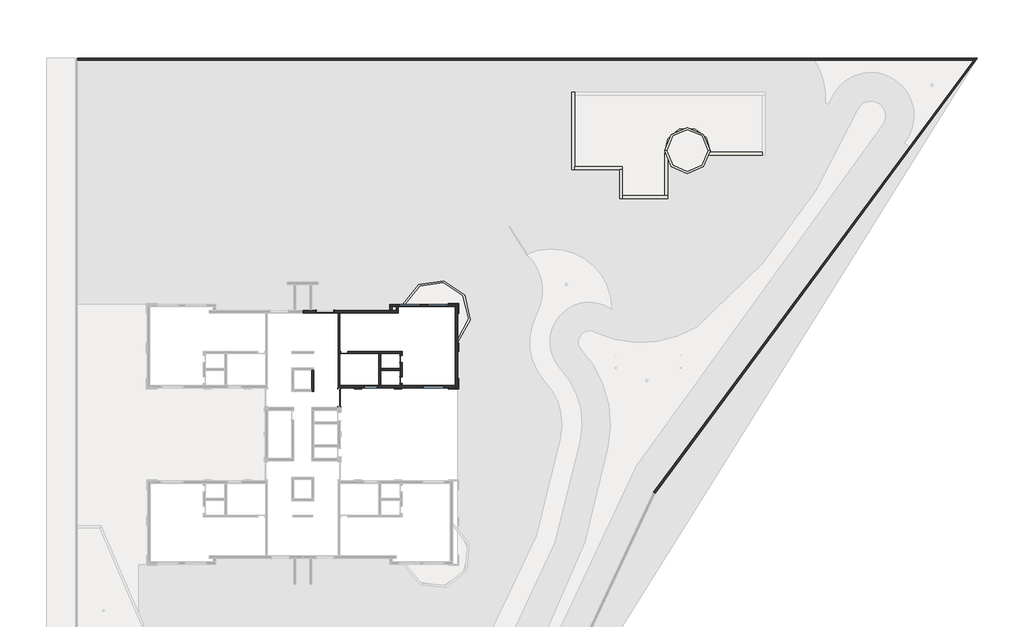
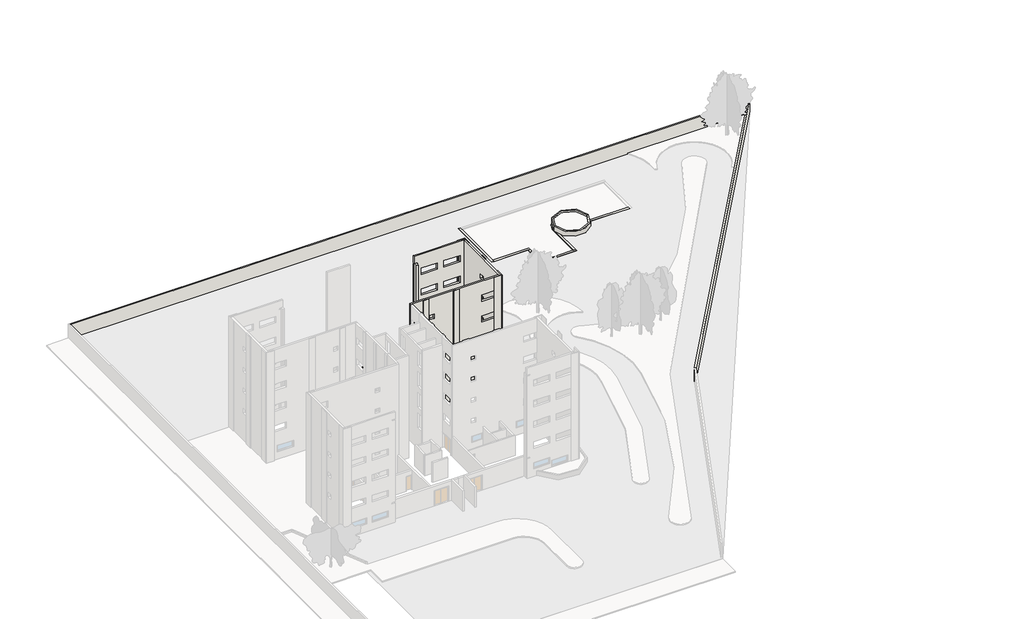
# One storey, part 5 of 6: 32 walls, 5 doors, 4 windows.
"""IFC4 building model written with IfcOpenShell, lengths in millimetres."""

from ifc_helpers import new_model, si_unit, point, frame, frame_2d, origin, origin_with_axes, place, context, project, spatial, polyline, circle_curve, trimmed, segment, composite_curve, outline, extrude, faceted_brep, transform, mapped, element, save
from ifc_brep_helpers import plane_surface, revolved_surface, advanced_brep
from components import door_1830_x_2134_mm_660d1098, door_1830_x_2134_mm_dff67cf6, door_70_x_210_60989ca5, door_70_x_210_2a34fc55, window_140_x_90_3976a560, window_220_x_90_cea65aae

model = new_model("IFC4")

# Units and contexts
model_context = context("Model", 3, world=origin())
ifc_project = project(units=[si_unit("LENGTHUNIT", "METRE", prefix="MILLI")], contexts=[model_context])

# Site, building, storey
site = spatial("IfcSite", under=ifc_project)
building = spatial("IfcBuilding", under=site)
storey = spatial("IfcBuildingStorey", under=building, Name="Térreo", Elevation=0.0)

# Doors
placement = place(None, origin())
door_1830_x_2134_mm_shape = door_1830_x_2134_mm_660d1098(model_context)
element("IfcDoor", 1, ObjectType="Descarga dupla : 1830 x 2134 mm", at=placement, inside=storey, context=model_context, shape_type="MappedRepresentation", body=[
    mapped(door_1830_x_2134_mm_shape, transform((1266.2734258, 13478.6614625, 0.0), x_axis=(-1.0, 0.0, 0.0), y_axis=(0.0, -1.0, 0.0), z_axis=(0.0, 0.0, 1.0))),
])
door_1830_x_2134_mm_2_shape = door_1830_x_2134_mm_dff67cf6(model_context)
element("IfcDoor", 2, ObjectType="Descarga dupla : 1830 x 2134 mm", at=placement, inside=storey, context=model_context, shape_type="MappedRepresentation", body=[
    mapped(door_1830_x_2134_mm_2_shape, transform((2748.7734258, 4563.6614625, 0.0), x_axis=(0.0, 1.0, 0.0), y_axis=(-1.0, 0.0, 0.0), z_axis=(0.0, 0.0, 1.0))),
])
door_70_x_210_shape = door_70_x_210_60989ca5(model_context)
element("IfcDoor", 3, ObjectType="M_Descarga simples : 70 x 210", at=placement, inside=storey, context=model_context, shape_type="MappedRepresentation", body=[
    mapped(door_70_x_210_shape, transform((3273.7734258, 9233.6614625, 0.0), x_axis=(-1.0, 0.0, 0.0), y_axis=(0.0, -1.0, 0.0), z_axis=(0.0, 0.0, 1.0))),
])
element("IfcDoor", 4, ObjectType="M_Descarga simples : 70 x 210", at=placement, inside=storey, context=model_context, shape_type="MappedRepresentation", body=[
    mapped(door_70_x_210_shape, transform((9138.7734258, 8583.6614625, 0.0), x_axis=(0.0, 1.0, 0.0), y_axis=(-1.0, 0.0, 0.0), z_axis=(0.0, 0.0, 1.0))),
])
door_70_x_210_2_shape = door_70_x_210_2a34fc55(model_context)
element("IfcDoor", 5, ObjectType="M_Descarga simples : 70 x 210", at=placement, inside=storey, context=model_context, shape_type="MappedRepresentation", body=[
    mapped(door_70_x_210_2_shape, transform((9138.7734258, 6383.6614625, 0.0), x_axis=(0.0, -1.0, 0.0), y_axis=(1.0, 0.0, 0.0), z_axis=(0.0, 0.0, 1.0))),
])

# Walls
element("IfcWall", 6, ObjectType="Exeterna 25", at=placement, inside=storey, context=model_context, shape_type="Brep", body=[
    faceted_brep([(7973.7734258, 13983.6614625, 0.0), (8223.7734258, 13983.6614625, 0.0), (8638.7734258, 13983.6614625, 0.0), (8838.7734258, 13983.6614625, 0.0), (14763.7734258, 13983.6614625, 0.0), (15013.7734258, 13983.6614625, 0.0), (15013.7734258, 13983.6614625, 16000.0), (14763.7734258, 13983.6614625, 16000.0), (7973.7734258, 13983.6614625, 16000.0), (7973.7734258, 13983.6614625, 15000.0), (8463.7734258, 13983.6614625, 15000.0), (8463.7734258, 13983.6614625, 14850.0), (7973.7734258, 13983.6614625, 14850.0), (7973.7734258, 13983.6614625, 3000.0), (8463.7734258, 13983.6614625, 3000.0), (8463.7734258, 13983.6614625, 2850.0), (7973.7734258, 13983.6614625, 2850.0), (14238.7734258, 13983.6614625, 5000.0), (14238.7734258, 13983.6614625, 4100.0), (12038.7734258, 13983.6614625, 4100.0), (12038.7734258, 13983.6614625, 5000.0), (11138.7734258, 13983.6614625, 5000.0), (11138.7734258, 13983.6614625, 4100.0), (8938.7734258, 13983.6614625, 4100.0), (8938.7734258, 13983.6614625, 5000.0), (14238.7734258, 13983.6614625, 8000.0), (14238.7734258, 13983.6614625, 7100.0), (12038.7734258, 13983.6614625, 7100.0), (12038.7734258, 13983.6614625, 8000.0), (11138.7734258, 13983.6614625, 8000.0), (11138.7734258, 13983.6614625, 7100.0), (8938.7734258, 13983.6614625, 7100.0), (8938.7734258, 13983.6614625, 8000.0), (14238.7734258, 13983.6614625, 11000.0), (14238.7734258, 13983.6614625, 10100.0), (12038.7734258, 13983.6614625, 10100.0), (12038.7734258, 13983.6614625, 11000.0), (11138.7734258, 13983.6614625, 11000.0), (11138.7734258, 13983.6614625, 10100.0), (8938.7734258, 13983.6614625, 10100.0), (8938.7734258, 13983.6614625, 11000.0), (14238.7734258, 13983.6614625, 14000.0), (14238.7734258, 13983.6614625, 13100.0), (12038.7734258, 13983.6614625, 13100.0), (12038.7734258, 13983.6614625, 14000.0), (11138.7734258, 13983.6614625, 14000.0), (11138.7734258, 13983.6614625, 13100.0), (8938.7734258, 13983.6614625, 13100.0), (8938.7734258, 13983.6614625, 14000.0), (14043.7734258, 13983.6614625, 2000.0), (14043.7734258, 13983.6614625, 1100.0), (11843.7734258, 13983.6614625, 1100.0), (11843.7734258, 13983.6614625, 2000.0), (11138.7734258, 13983.6614625, 2000.0), (11138.7734258, 13983.6614625, 1100.0), (8938.7734258, 13983.6614625, 1100.0), (8938.7734258, 13983.6614625, 2000.0), (15013.7734258, 14233.6614625, 0.0), (9512.5678464, 14233.6614625, 0.0), (9302.0913006, 14233.6614625, 0.0), (7973.7734258, 14233.6614625, 0.0), (7973.7734258, 14233.6614625, 2850.0), (8463.7734258, 14233.6614625, 2850.0), (8463.7734258, 14233.6614625, 3000.0), (7973.7734258, 14233.6614625, 3000.0), (7973.7734258, 14233.6614625, 14850.0), (8463.7734258, 14233.6614625, 14850.0), (8463.7734258, 14233.6614625, 15000.0), (7973.7734258, 14233.6614625, 15000.0), (7973.7734258, 14233.6614625, 16000.0), (8463.7734258, 14233.6614625, 16000.0), (8713.7734258, 14233.6614625, 16000.0), (15013.7734258, 14233.6614625, 16000.0), (14238.7734258, 14233.6614625, 4100.0), (14238.7734258, 14233.6614625, 5000.0), (12038.7734258, 14233.6614625, 5000.0), (12038.7734258, 14233.6614625, 4100.0), (11138.7734258, 14233.6614625, 4100.0), (11138.7734258, 14233.6614625, 5000.0), (8938.7734258, 14233.6614625, 5000.0), (8938.7734258, 14233.6614625, 4100.0), (14238.7734258, 14233.6614625, 7100.0), (14238.7734258, 14233.6614625, 8000.0), (12038.7734258, 14233.6614625, 8000.0), (12038.7734258, 14233.6614625, 7100.0), (11138.7734258, 14233.6614625, 7100.0), (11138.7734258, 14233.6614625, 8000.0), (8938.7734258, 14233.6614625, 8000.0), (8938.7734258, 14233.6614625, 7100.0), (14238.7734258, 14233.6614625, 10100.0), (14238.7734258, 14233.6614625, 11000.0), (12038.7734258, 14233.6614625, 11000.0), (12038.7734258, 14233.6614625, 10100.0), (11138.7734258, 14233.6614625, 10100.0), (11138.7734258, 14233.6614625, 11000.0), (8938.7734258, 14233.6614625, 11000.0), (8938.7734258, 14233.6614625, 10100.0), (14238.7734258, 14233.6614625, 13100.0), (14238.7734258, 14233.6614625, 14000.0), (12038.7734258, 14233.6614625, 14000.0), (12038.7734258, 14233.6614625, 13100.0), (11138.7734258, 14233.6614625, 13100.0), (11138.7734258, 14233.6614625, 14000.0), (8938.7734258, 14233.6614625, 14000.0), (8938.7734258, 14233.6614625, 13100.0), (14043.7734258, 14233.6614625, 1100.0), (14043.7734258, 14233.6614625, 2000.0), (11843.7734258, 14233.6614625, 2000.0), (11843.7734258, 14233.6614625, 1100.0), (11138.7734258, 14233.6614625, 1100.0), (11138.7734258, 14233.6614625, 2000.0), (8938.7734258, 14233.6614625, 2000.0), (8938.7734258, 14233.6614625, 1100.0)], [[[0, 1, 2, 3, 4, 5, 6, 7, 8, 9, 10, 11, 12, 13, 14, 15, 16], [17, 18, 19, 20], [21, 22, 23, 24], [25, 26, 27, 28], [29, 30, 31, 32], [33, 34, 35, 36], [37, 38, 39, 40], [41, 42, 43, 44], [45, 46, 47, 48], [49, 50, 51, 52], [53, 54, 55, 56]], [[57, 58, 59, 60, 61, 62, 63, 64, 65, 66, 67, 68, 69, 70, 71, 72], [73, 74, 75, 76], [77, 78, 79, 80], [81, 82, 83, 84], [85, 86, 87, 88], [89, 90, 91, 92], [93, 94, 95, 96], [97, 98, 99, 100], [101, 102, 103, 104], [105, 106, 107, 108], [109, 110, 111, 112]], [[5, 4, 3, 2, 1, 0, 60, 59, 58, 57]], [[8, 7, 6, 72, 71, 70, 69]], [[6, 5, 57, 72]], [[8, 69, 68, 9]], [[60, 0, 16, 61]], [[64, 13, 12, 65]], [[15, 62, 61, 16]], [[63, 14, 13, 64]], [[62, 15, 14, 63]], [[74, 73, 18, 17]], [[75, 74, 17, 20]], [[76, 75, 20, 19]], [[73, 76, 19, 18]], [[78, 77, 22, 21]], [[79, 78, 21, 24]], [[80, 79, 24, 23]], [[77, 80, 23, 22]], [[11, 66, 65, 12]], [[67, 10, 9, 68]], [[66, 11, 10, 67]], [[82, 81, 26, 25]], [[83, 82, 25, 28]], [[84, 83, 28, 27]], [[81, 84, 27, 26]], [[86, 85, 30, 29]], [[87, 86, 29, 32]], [[88, 87, 32, 31]], [[85, 88, 31, 30]], [[90, 89, 34, 33]], [[91, 90, 33, 36]], [[92, 91, 36, 35]], [[89, 92, 35, 34]], [[94, 93, 38, 37]], [[95, 94, 37, 40]], [[96, 95, 40, 39]], [[93, 96, 39, 38]], [[98, 97, 42, 41]], [[99, 98, 41, 44]], [[100, 99, 44, 43]], [[97, 100, 43, 42]], [[102, 101, 46, 45]], [[103, 102, 45, 48]], [[104, 103, 48, 47]], [[101, 104, 47, 46]], [[106, 105, 50, 49]], [[107, 106, 49, 52]], [[108, 107, 52, 51]], [[105, 108, 51, 50]], [[110, 109, 54, 53]], [[111, 110, 53, 56]], [[112, 111, 56, 55]], [[109, 112, 55, 54]]]),
])
element("IfcWall", 7, ObjectType="Exeterna 25", at=placement, inside=storey, context=model_context, shape_type="Brep", body=[
    faceted_brep([(14763.7734258, 13983.6614625, 0.0), (14763.7734258, 5833.6614625, 0.0), (14763.7734258, 5583.6614625, 0.0), (14763.7734258, 5583.6614625, 16000.0), (14763.7734258, 5833.6614625, 16000.0), (14763.7734258, 13983.6614625, 16000.0), (14763.7734258, 13983.6614625, 15000.0), (14763.7734258, 13983.6614625, 14850.0), (14763.7734258, 13983.6614625, 3000.0), (14763.7734258, 13983.6614625, 2850.0), (14763.7734258, 10033.6614625, 3915.0), (14763.7734258, 10033.6614625, 4515.0), (14763.7734258, 9433.6614625, 4515.0), (14763.7734258, 9433.6614625, 3915.0), (14763.7734258, 10033.6614625, 6915.0), (14763.7734258, 10033.6614625, 7515.0), (14763.7734258, 9433.6614625, 7515.0), (14763.7734258, 9433.6614625, 6915.0), (14763.7734258, 10033.6614625, 9915.0), (14763.7734258, 10033.6614625, 10515.0), (14763.7734258, 9433.6614625, 10515.0), (14763.7734258, 9433.6614625, 9915.0), (14763.7734258, 10033.6614625, 12915.0), (14763.7734258, 10033.6614625, 13515.0), (14763.7734258, 9433.6614625, 13515.0), (14763.7734258, 9433.6614625, 12915.0), (15013.7734258, 13983.6614625, 0.0), (15013.7734258, 13983.6614625, 16000.0), (15013.7734258, 5583.6614625, 16000.0), (15013.7734258, 5583.6614625, 0.0), (15013.7734258, 10337.4321166, 0.0), (15013.7734258, 10600.0438281, 0.0), (15013.7734258, 10033.6614625, 3915.0), (15013.7734258, 9433.6614625, 3915.0), (15013.7734258, 9433.6614625, 4515.0), (15013.7734258, 10033.6614625, 4515.0), (15013.7734258, 10033.6614625, 6915.0), (15013.7734258, 9433.6614625, 6915.0), (15013.7734258, 9433.6614625, 7515.0), (15013.7734258, 10033.6614625, 7515.0), (15013.7734258, 10033.6614625, 9915.0), (15013.7734258, 9433.6614625, 9915.0), (15013.7734258, 9433.6614625, 10515.0), (15013.7734258, 10033.6614625, 10515.0), (15013.7734258, 10033.6614625, 12915.0), (15013.7734258, 9433.6614625, 12915.0), (15013.7734258, 9433.6614625, 13515.0), (15013.7734258, 10033.6614625, 13515.0)], [[[0, 1, 2, 3, 4, 5, 6, 7, 8, 9], [10, 11, 12, 13], [14, 15, 16, 17], [18, 19, 20, 21], [22, 23, 24, 25]], [[26, 27, 28, 29, 30, 31], [32, 33, 34, 35], [36, 37, 38, 39], [40, 41, 42, 43], [44, 45, 46, 47]], [[2, 1, 0, 26, 31, 30, 29]], [[5, 4, 3, 28, 27]], [[3, 2, 29, 28]], [[0, 9, 8, 7, 6, 5, 27, 26]], [[11, 10, 32, 35]], [[12, 11, 35, 34]], [[13, 12, 34, 33]], [[10, 13, 33, 32]], [[15, 14, 36, 39]], [[16, 15, 39, 38]], [[17, 16, 38, 37]], [[14, 17, 37, 36]], [[19, 18, 40, 43]], [[20, 19, 43, 42]], [[21, 20, 42, 41]], [[18, 21, 41, 40]], [[23, 22, 44, 47]], [[24, 23, 47, 46]], [[25, 24, 46, 45]], [[22, 25, 45, 44]]]),
])
element("IfcWall", 8, ObjectType="Exeterna 25", at=placement, inside=storey, context=model_context, shape_type="Brep", body=[
    faceted_brep([(14763.7734258, 5833.6614625, 0.0), (9238.7734258, 5833.6614625, 0.0), (9038.7734258, 5833.6614625, 0.0), (7023.7734258, 5833.6614625, 0.0), (6823.7734258, 5833.6614625, 0.0), (2823.7734258, 5833.6614625, 0.0), (2623.7734258, 5833.6614625, 0.0), (2623.7734258, 5833.6614625, 2850.0), (2623.7734258, 5833.6614625, 3000.0), (2623.7734258, 5833.6614625, 5850.0), (2623.7734258, 5833.6614625, 6000.0), (2623.7734258, 5833.6614625, 8850.0), (2623.7734258, 5833.6614625, 9000.0), (2623.7734258, 5833.6614625, 11850.0), (2623.7734258, 5833.6614625, 12000.0), (2623.7734258, 5833.6614625, 14850.0), (2623.7734258, 5833.6614625, 15000.0), (2623.7734258, 5833.6614625, 16000.0), (14763.7734258, 5833.6614625, 16000.0), (14763.7734258, 5833.6614625, 15000.0), (14763.7734258, 5833.6614625, 14850.0), (14763.7734258, 5833.6614625, 3000.0), (14763.7734258, 5833.6614625, 2850.0), (5863.7734258, 5833.6614625, 3915.0), (5863.7734258, 5833.6614625, 4515.0), (5263.7734258, 5833.6614625, 4515.0), (5263.7734258, 5833.6614625, 3915.0), (12363.7734258, 5833.6614625, 5000.0), (12363.7734258, 5833.6614625, 4100.0), (14563.7734258, 5833.6614625, 4100.0), (14563.7734258, 5833.6614625, 5000.0), (5863.7734258, 5833.6614625, 6915.0), (5863.7734258, 5833.6614625, 7515.0), (5263.7734258, 5833.6614625, 7515.0), (5263.7734258, 5833.6614625, 6915.0), (12363.7734258, 5833.6614625, 8000.0), (12363.7734258, 5833.6614625, 7100.0), (14563.7734258, 5833.6614625, 7100.0), (14563.7734258, 5833.6614625, 8000.0), (5863.7734258, 5833.6614625, 9915.0), (5863.7734258, 5833.6614625, 10515.0), (5263.7734258, 5833.6614625, 10515.0), (5263.7734258, 5833.6614625, 9915.0), (12363.7734258, 5833.6614625, 11000.0), (12363.7734258, 5833.6614625, 10100.0), (14563.7734258, 5833.6614625, 10100.0), (14563.7734258, 5833.6614625, 11000.0), (5863.7734258, 5833.6614625, 12915.0), (5863.7734258, 5833.6614625, 13515.0), (5263.7734258, 5833.6614625, 13515.0), (5263.7734258, 5833.6614625, 12915.0), (12363.7734258, 5833.6614625, 14000.0), (12363.7734258, 5833.6614625, 13100.0), (14563.7734258, 5833.6614625, 13100.0), (14563.7734258, 5833.6614625, 14000.0), (11393.7734258, 5833.6614625, 2000.0), (11393.7734258, 5833.6614625, 1100.0), (13593.7734258, 5833.6614625, 1100.0), (13593.7734258, 5833.6614625, 2000.0), (5323.7734258, 5833.6614625, 2000.0), (5323.7734258, 5833.6614625, 1100.0), (6723.7734258, 5833.6614625, 1100.0), (6723.7734258, 5833.6614625, 2000.0), (2623.7734258, 5583.6614625, 0.0), (2873.7734258, 5583.6614625, 0.0), (14763.7734258, 5583.6614625, 0.0), (14763.7734258, 5583.6614625, 16000.0), (2873.7734258, 5583.6614625, 16000.0), (2623.7734258, 5583.6614625, 16000.0), (2623.7734258, 5583.6614625, 15000.0), (2623.7734258, 5583.6614625, 14850.0), (2623.7734258, 5583.6614625, 3000.0), (2623.7734258, 5583.6614625, 2850.0), (5863.7734258, 5583.6614625, 4515.0), (5863.7734258, 5583.6614625, 3915.0), (5263.7734258, 5583.6614625, 3915.0), (5263.7734258, 5583.6614625, 4515.0), (12363.7734258, 5583.6614625, 4100.0), (12363.7734258, 5583.6614625, 5000.0), (14563.7734258, 5583.6614625, 5000.0), (14563.7734258, 5583.6614625, 4100.0), (5863.7734258, 5583.6614625, 7515.0), (5863.7734258, 5583.6614625, 6915.0), (5263.7734258, 5583.6614625, 6915.0), (5263.7734258, 5583.6614625, 7515.0), (12363.7734258, 5583.6614625, 7100.0), (12363.7734258, 5583.6614625, 8000.0), (14563.7734258, 5583.6614625, 8000.0), (14563.7734258, 5583.6614625, 7100.0), (5863.7734258, 5583.6614625, 10515.0), (5863.7734258, 5583.6614625, 9915.0), (5263.7734258, 5583.6614625, 9915.0), (5263.7734258, 5583.6614625, 10515.0), (12363.7734258, 5583.6614625, 10100.0), (12363.7734258, 5583.6614625, 11000.0), (14563.7734258, 5583.6614625, 11000.0), (14563.7734258, 5583.6614625, 10100.0), (5863.7734258, 5583.6614625, 13515.0), (5863.7734258, 5583.6614625, 12915.0), (5263.7734258, 5583.6614625, 12915.0), (5263.7734258, 5583.6614625, 13515.0), (12363.7734258, 5583.6614625, 13100.0), (12363.7734258, 5583.6614625, 14000.0), (14563.7734258, 5583.6614625, 14000.0), (14563.7734258, 5583.6614625, 13100.0), (11393.7734258, 5583.6614625, 1100.0), (11393.7734258, 5583.6614625, 2000.0), (13593.7734258, 5583.6614625, 2000.0), (13593.7734258, 5583.6614625, 1100.0), (5323.7734258, 5583.6614625, 1100.0), (5323.7734258, 5583.6614625, 2000.0), (6723.7734258, 5583.6614625, 2000.0), (6723.7734258, 5583.6614625, 1100.0)], [[[0, 1, 2, 3, 4, 5, 6, 7, 8, 9, 10, 11, 12, 13, 14, 15, 16, 17, 18, 19, 20, 21, 22], [23, 24, 25, 26], [27, 28, 29, 30], [31, 32, 33, 34], [35, 36, 37, 38], [39, 40, 41, 42], [43, 44, 45, 46], [47, 48, 49, 50], [51, 52, 53, 54], [55, 56, 57, 58], [59, 60, 61, 62]], [[63, 64, 65, 66, 67, 68, 69, 70, 71, 72], [73, 74, 75, 76], [77, 78, 79, 80], [81, 82, 83, 84], [85, 86, 87, 88], [89, 90, 91, 92], [93, 94, 95, 96], [97, 98, 99, 100], [101, 102, 103, 104], [105, 106, 107, 108], [109, 110, 111, 112]], [[6, 5, 4, 3, 2, 1, 0, 65, 64, 63]], [[18, 17, 68, 67, 66]], [[18, 66, 65, 0, 22, 21, 20, 19]], [[24, 23, 74, 73]], [[25, 24, 73, 76]], [[26, 25, 76, 75]], [[23, 26, 75, 74]], [[78, 77, 28, 27]], [[79, 78, 27, 30]], [[80, 79, 30, 29]], [[77, 80, 29, 28]], [[6, 63, 72, 71, 70, 69, 68, 17, 16, 15, 14, 13, 12, 11, 10, 9, 8, 7]], [[32, 31, 82, 81]], [[33, 32, 81, 84]], [[34, 33, 84, 83]], [[31, 34, 83, 82]], [[86, 85, 36, 35]], [[87, 86, 35, 38]], [[88, 87, 38, 37]], [[85, 88, 37, 36]], [[40, 39, 90, 89]], [[41, 40, 89, 92]], [[42, 41, 92, 91]], [[39, 42, 91, 90]], [[94, 93, 44, 43]], [[95, 94, 43, 46]], [[96, 95, 46, 45]], [[93, 96, 45, 44]], [[48, 47, 98, 97]], [[49, 48, 97, 100]], [[50, 49, 100, 99]], [[47, 50, 99, 98]], [[102, 101, 52, 51]], [[103, 102, 51, 54]], [[104, 103, 54, 53]], [[101, 104, 53, 52]], [[106, 105, 56, 55]], [[107, 106, 55, 58]], [[108, 107, 58, 57]], [[105, 108, 57, 56]], [[110, 109, 60, 59]], [[111, 110, 59, 62]], [[112, 111, 62, 61]], [[109, 112, 61, 60]]]),
])
element("IfcWall", 9, ObjectType="Exeterna 25", at=placement, inside=storey, context=model_context, shape_type="SweptSolid", body=[
    extrude(outline(polyline([(13478.6614625, 0.0), (13478.6614625, 3000.0), (13603.6614625, 3000.0), (13603.6614625, 6000.0), (13478.6614625, 6000.0), (13478.6614625, 15000.0), (13983.6614625, 15000.0), (13983.6614625, 0.0), (13478.6614625, 0.0)])), frame((7973.7734258, 0.0, 0.0), z_axis=(1.0, 0.0, 0.0), x_axis=(0.0, 1.0, 0.0)), (0.0, 0.0, 1.0), 250.0),
])
element("IfcWall", 10, ObjectType="Exeterna 25", at=placement, inside=storey, context=model_context, shape_type="Brep", body=[
    faceted_brep([(8838.7734258, 13353.6614625, 2850.0), (2823.7734258, 13353.6614625, 2850.0), (2623.7734258, 13353.6614625, 2850.0), (-1026.2265742, 13353.6614625, 2850.0), (-1026.2265742, 13353.6614625, 0.0), (351.2734258, 13353.6614625, 0.0), (351.2734258, 13353.6614625, 2134.0), (2181.2734258, 13353.6614625, 2134.0), (2181.2734258, 13353.6614625, 0.0), (2623.7734258, 13353.6614625, 0.0), (2823.7734258, 13353.6614625, 0.0), (8838.7734258, 13353.6614625, 0.0), (-1026.2265742, 13603.6614625, 2850.0), (8838.7734258, 13603.6614625, 2850.0), (8838.7734258, 13603.6614625, 0.0), (8638.7734258, 13603.6614625, 0.0), (2181.2734258, 13603.6614625, 0.0), (2181.2734258, 13603.6614625, 2134.0), (351.2734258, 13603.6614625, 2134.0), (351.2734258, 13603.6614625, 0.0), (-91.2265742, 13603.6614625, 0.0), (-291.2265742, 13603.6614625, 0.0), (-1026.2265742, 13603.6614625, 0.0)], [[[0, 1, 2, 3, 4, 5, 6, 7, 8, 9, 10, 11]], [[12, 13, 14, 15, 16, 17, 18, 19, 20, 21, 22]], [[4, 22, 21, 20, 19, 5]], [[14, 11, 10, 9, 8, 16, 15]], [[3, 2, 1, 0, 13, 12]], [[4, 3, 12, 22]], [[0, 11, 14, 13]], [[18, 6, 5, 19]], [[6, 18, 17, 7]], [[7, 17, 16, 8]]]),
])
element("IfcWall", 11, ObjectType="jardineira", at=placement, inside=storey, context=model_context, shape_type="SweptSolid", body=[
    extrude(outline(composite_curve([segment(polyline([(15013.7734258, 10337.4321166), (15013.7734258, 10600.0438281)]), True, "CONTINUOUS"), segment(trimmed(circle_curve(frame_2d((12741.4420778, 13140.9435619)), 3408.7624165), [point((15013.7734258, 10600.0438281))], [point((9512.5678464, 14233.6614625))], True, "CARTESIAN"), True, "CONTINUOUS"), segment(polyline([(9512.5678464, 14233.6614625), (9302.0913006, 14233.6614625)]), True, "CONTINUOUS"), segment(trimmed(circle_curve(frame_2d((12741.4420778, 13140.9435619)), 3608.7624165), [point((9302.0913006, 14233.6614625))], [point((15013.7734258, 10337.4321166))], False, "CARTESIAN"), True, "CONTINUOUS")], self_intersect=False)), origin_with_axes(), (0.0, 0.0, 1.0), 500.0),
])
element("IfcWall", 12, ObjectType="Exeterna 25", at=placement, inside=storey, context=model_context, shape_type="SweptSolid", body=[
    extrude(outline(polyline([(13478.6614625, 0.0), (13478.6614625, 3000.0), (13603.6614625, 3000.0), (13603.6614625, 6000.0), (13478.6614625, 6000.0), (13478.6614625, 15000.0), (13983.6614625, 15000.0), (13983.6614625, 0.0), (13478.6614625, 0.0)])), frame((7973.7734258, 0.0, 0.0), z_axis=(1.0, 0.0, 0.0), x_axis=(0.0, 1.0, 0.0)), (0.0, 0.0, 1.0), 250.0),
])
element("IfcWall", 13, ObjectType="Fundação - 300 mm Concreto", at=placement, inside=storey, context=model_context, shape_type="Brep", body=[
    faceted_brep([(26807.4178737, 36194.5466212, -4000.0), (26807.4178737, 28194.5466212, -4000.0), (26807.4178737, 28194.5466212, 0.0), (26807.4178737, 36194.5466212, 0.0), (27107.4178737, 36194.5466212, -4000.0), (27107.4178737, 36194.5466212, 0.0), (27107.4178737, 35894.5466212, 0.0), (27107.4178737, 28494.5466212, 0.0), (27107.4178737, 28194.5466212, 0.0), (27107.4178737, 28194.5466212, -4000.0), (27107.4178737, 28494.5466212, -4000.0), (27107.4178737, 35894.5466212, -4000.0)], [[[0, 1, 2, 3]], [[4, 5, 6, 7, 8, 9, 10, 11]], [[1, 0, 4, 11, 10, 9]], [[3, 2, 8, 7, 6, 5]], [[2, 1, 9, 8]], [[0, 3, 5, 4]]]),
])
element("IfcWall", 14, ObjectType="Fundação - 300 mm Concreto", at=placement, inside=storey, context=model_context, shape_type="Brep", body=[
    faceted_brep([(27107.4178737, 28194.5466212, -4000.0), (31733.2652295, 28194.5466212, -4000.0), (32033.2652295, 28194.5466212, -4000.0), (32033.2652295, 28194.5466212, 0.0), (31733.2652295, 28194.5466212, 0.0), (27107.4178737, 28194.5466212, 0.0), (27107.4178737, 28494.5466212, -4000.0), (27107.4178737, 28494.5466212, 0.0), (32033.2652295, 28494.5466212, 0.0), (32033.2652295, 28494.5466212, -4000.0)], [[[0, 1, 2, 3, 4, 5]], [[6, 7, 8, 9]], [[2, 1, 0, 6, 9]], [[5, 4, 3, 8, 7]], [[0, 5, 7, 6]], [[3, 2, 9, 8]]]),
])
element("IfcWall", 15, ObjectType="Fundação - 300 mm Concreto", at=placement, inside=storey, context=model_context, shape_type="Brep", body=[
    faceted_brep([(31733.2652295, 28194.5466212, -4000.0), (31733.2652295, 25194.5466212, -4000.0), (31733.2652295, 25194.5466212, 0.0), (31733.2652295, 28194.5466212, 0.0), (32033.2652295, 28194.5466212, -4000.0), (32033.2652295, 28194.5466212, 0.0), (32033.2652295, 25494.5466212, 0.0), (32033.2652295, 25194.5466212, 0.0), (32033.2652295, 25194.5466212, -4000.0), (32033.2652295, 25494.5466212, -4000.0)], [[[0, 1, 2, 3]], [[4, 5, 6, 7, 8, 9]], [[1, 0, 4, 9, 8]], [[3, 2, 7, 6, 5]], [[0, 3, 5, 4]], [[2, 1, 8, 7]]]),
])
element("IfcWall", 16, ObjectType="Fundação - 300 mm Concreto", at=placement, inside=storey, context=model_context, shape_type="Brep", body=[
    faceted_brep([(32033.2652295, 25194.5466212, -4000.0), (36711.240245, 25194.5466212, -4000.0), (36711.240245, 25194.5466212, 0.0), (32033.2652295, 25194.5466212, 0.0), (32033.2652295, 25494.5466212, -4000.0), (32033.2652295, 25494.5466212, 0.0), (36411.240245, 25494.5466212, 0.0), (36711.240245, 25494.5466212, 0.0), (36711.240245, 25494.5466212, -4000.0), (36411.240245, 25494.5466212, -4000.0)], [[[0, 1, 2, 3]], [[4, 5, 6, 7, 8, 9]], [[1, 0, 4, 9, 8]], [[3, 2, 7, 6, 5]], [[0, 3, 5, 4]], [[2, 1, 8, 7]]]),
])
element("IfcWall", 17, ObjectType="Fundação - 300 mm Concreto", at=placement, inside=storey, context=model_context, shape_type="SweptSolid", body=[
    extrude(outline(polyline([(36711.240245, 29810.413094), (36711.240245, 25494.5466212), (36411.240245, 25494.5466212), (36411.240245, 29787.3178567), (36711.240245, 29810.413094)])), frame((0.0, 0.0, -4000.0), z_axis=(0.0, 0.0, 1.0), x_axis=(1.0, 0.0, 0.0)), (0.0, 0.0, 1.0), 4000.0),
])
element("IfcWall", 18, ObjectType="Fundação - 300 mm Concreto", at=placement, inside=storey, context=model_context, shape_type="AdvancedBrep", body=[
    advanced_brep(
    [(40743.9947066, 29660.413094, -4000.0), (46507.4513898, 29660.413094, -4000.0), (46507.4513898, 29660.413094, 0.0), (40743.9947066, 29660.413094, 0.0), (40792.2628524, 29960.413094, -4000.0), (40792.2628524, 29960.413094, 0.0), (41093.2245807, 29960.413094, 0.0), (46507.4513898, 29960.413094, 0.0), (46507.4513898, 29960.413094, -4000.0), (41093.2245807, 29960.413094, -4000.0)],
    [
        (0, 1),
        (1, 2),
        (2, 3),
        (3, 0),
        (4, 5),
        (5, 6),
        (6, 7),
        (7, 8),
        (8, 9),
        (9, 4),
        (0, 4, circle_curve(frame((38742.5293591, 30136.3195215, -4000.0), z_axis=(0.0, 0.0, 1.0), x_axis=(1.0, 0.0, 0.0)), 2057.2677183)),
        (8, 1),
        (2, 7),
        (5, 3, circle_curve(frame((38742.5293591, 30136.3195215, 0.0), z_axis=(0.0, 0.0, -1.0), x_axis=(1.0, 0.0, 0.0)), 2057.2677183)),
    ],
    [
        plane_surface(frame((40792.2628524, 29660.413094, -4000.0), z_axis=(0.0, -1.0, 0.0), x_axis=(1.0, 0.0, 0.0))),
        plane_surface(frame((40792.2628524, 29960.413094, -4000.0), z_axis=(0.0, 1.0, 0.0), x_axis=(-1.0, 0.0, 0.0))),
        plane_surface(frame((40925.6042046, 29660.413094, -4000.0), z_axis=(0.0, 0.0, -1.0), x_axis=(0.0, 1.0, 0.0))),
        plane_surface(frame((46657.4513898, 29660.413094, 0.0), z_axis=(0.0, 0.0, 1.0), x_axis=(0.0, 1.0, 0.0))),
        plane_surface(frame((46507.4513898, 29660.413094, -4000.0), z_axis=(1.0, 0.0, 0.0), x_axis=(0.0, -1.0, 0.0))),
        revolved_surface(polyline([(40799.7970774, 30136.3195215, -4000.0), (40799.7970774, 30136.3195215, 0.0)]), (38742.5293591, 30136.3195215, -4000.0), (0.0, 0.0, -1.0)),
    ],
    [
        (0, [[1, 2, 3, 4]]),
        (1, [[5, 6, 7, 8, 9, 10]]),
        (2, [[-1, 11, -10, -9, 12]]),
        (3, [[-3, 13, -7, -6, 14]]),
        (4, [[-2, -12, -8, -13]]),
        (5, [[-4, -14, -5, -11]]),
    ],
),
])
element("IfcWall", 19, ObjectType="Fundação - 300 mm Concreto", at=placement, inside=storey, context=model_context, shape_type="SweptSolid", body=[
    extrude(outline(composite_curve([segment(polyline([(41093.2245807, 29960.413094), (40792.2628524, 29960.413094)]), True, "CONTINUOUS"), segment(trimmed(circle_curve(frame_2d((38742.5293591, 30136.3195215)), 2057.2677183), [point((40792.2628524, 29960.413094))], [point((36711.240245, 29810.413094))], True, "CARTESIAN"), True, "CONTINUOUS"), segment(polyline([(36711.240245, 29810.413094), (36411.240245, 29787.3178567)]), True, "CONTINUOUS"), segment(trimmed(circle_curve(frame_2d((38742.5293591, 30136.3195215)), 2357.2677183), [point((36411.240245, 29787.3178567))], [point((41093.2245807, 29960.413094))], False, "CARTESIAN"), True, "CONTINUOUS")], self_intersect=False)), frame((0.0, 0.0, -4000.0), z_axis=(0.0, 0.0, 1.0), x_axis=(1.0, 0.0, 0.0)), (0.0, 0.0, 1.0), 4000.0),
])
element("IfcWall", 20, ObjectType="jardineira", at=placement, inside=storey, context=model_context, shape_type="SweptSolid", body=[
    extrude(outline(composite_curve([segment(polyline([(36585.2616408, 30136.3195215), (36385.2616408, 30136.3195215)]), True, "CONTINUOUS"), segment(trimmed(circle_curve(frame_2d((38742.5293591, 30136.3195215)), 2357.2677183), [point((36385.2616408, 30136.3195215))], [point((41099.7970775, 30136.3195215))], False, "CARTESIAN"), True, "CONTINUOUS"), segment(polyline([(41099.7970775, 30136.3195215), (40899.7970775, 30136.3195215)]), True, "CONTINUOUS"), segment(trimmed(circle_curve(frame_2d((38742.5293591, 30136.3195215)), 2157.2677183), [point((40899.7970775, 30136.3195215))], [point((36585.2616408, 30136.3195215))], True, "CARTESIAN"), True, "CONTINUOUS")], self_intersect=False)), origin_with_axes(), (0.0, 0.0, 1.0), 700.0),
])
element("IfcWall", 21, ObjectType="jardineira", at=placement, inside=storey, context=model_context, shape_type="SweptSolid", body=[
    extrude(outline(composite_curve([segment(polyline([(40899.7970775, 30136.3195215), (41099.7970775, 30136.3195215)]), True, "CONTINUOUS"), segment(trimmed(circle_curve(frame_2d((38742.5293591, 30136.3195215)), 2357.2677183), [point((41099.7970775, 30136.3195215))], [point((36385.2616408, 30136.3195215))], False, "CARTESIAN"), True, "CONTINUOUS"), segment(polyline([(36385.2616408, 30136.3195215), (36585.2616408, 30136.3195215)]), True, "CONTINUOUS"), segment(trimmed(circle_curve(frame_2d((38742.5293591, 30136.3195215)), 2157.2677183), [point((36585.2616408, 30136.3195215))], [point((40899.7970775, 30136.3195215))], True, "CARTESIAN"), True, "CONTINUOUS")], self_intersect=False)), origin_with_axes(), (0.0, 0.0, 1.0), 700.0),
])
element("IfcWall", 22, ObjectType="Estrutura 20", at=placement, inside=storey, context=model_context, shape_type="Brep", body=[
    faceted_brep([(2623.7734258, 13353.6614625, 0.0), (2623.7734258, 5833.6614625, 0.0), (2623.7734258, 5833.6614625, 2850.0), (2623.7734258, 13353.6614625, 2850.0), (2823.7734258, 13353.6614625, 0.0), (2823.7734258, 13353.6614625, 2850.0), (2823.7734258, 9333.6614625, 2850.0), (2823.7734258, 9133.6614625, 2850.0), (2823.7734258, 5833.6614625, 2850.0), (2823.7734258, 5833.6614625, 0.0), (2823.7734258, 9133.6614625, 0.0), (2823.7734258, 9333.6614625, 0.0)], [[[0, 1, 2, 3]], [[4, 5, 6, 7, 8, 9, 10, 11]], [[1, 0, 4, 11, 10, 9]], [[3, 2, 8, 7, 6, 5]], [[2, 1, 9, 8]], [[0, 3, 5, 4]]]),
])
element("IfcWall", 23, ObjectType="Estrutura 20", at=placement, inside=storey, context=model_context, shape_type="Brep", body=[
    faceted_brep([(2823.7734258, 9133.6614625, 0.0), (2923.7734258, 9133.6614625, 0.0), (2923.7734258, 9133.6614625, 2100.0), (3623.7734258, 9133.6614625, 2100.0), (3623.7734258, 9133.6614625, 0.0), (6823.7734258, 9133.6614625, 0.0), (7023.7734258, 9133.6614625, 0.0), (9038.7734258, 9133.6614625, 0.0), (9238.7734258, 9133.6614625, 0.0), (9238.7734258, 9133.6614625, 2850.0), (9038.7734258, 9133.6614625, 2850.0), (7023.7734258, 9133.6614625, 2850.0), (6823.7734258, 9133.6614625, 2850.0), (2823.7734258, 9133.6614625, 2850.0), (2923.7734258, 9333.6614625, 2100.0), (2923.7734258, 9333.6614625, 0.0), (2823.7734258, 9333.6614625, 0.0), (2823.7734258, 9333.6614625, 2850.0), (9238.7734258, 9333.6614625, 2850.0), (9238.7734258, 9333.6614625, 0.0), (3623.7734258, 9333.6614625, 0.0), (3623.7734258, 9333.6614625, 2100.0)], [[[0, 1, 2, 3, 4, 5, 6, 7, 8, 9, 10, 11, 12, 13]], [[14, 15, 16, 17, 18, 19, 20, 21]], [[20, 19, 8, 7, 6, 5, 4]], [[16, 15, 1, 0]], [[0, 13, 17, 16]], [[9, 8, 19, 18]], [[2, 1, 15, 14]], [[3, 2, 14, 21]], [[4, 3, 21, 20]], [[13, 12, 11, 10, 9, 18, 17]]]),
])
element("IfcWall", 24, ObjectType="Estrutura 20", at=placement, inside=storey, context=model_context, shape_type="Brep", body=[
    faceted_brep([(9038.7734258, 6033.6614625, 2100.0), (9038.7734258, 6033.6614625, 0.0), (9038.7734258, 5833.6614625, 0.0), (9038.7734258, 5833.6614625, 2850.0), (9038.7734258, 7383.6614625, 2850.0), (9038.7734258, 7583.6614625, 2850.0), (9038.7734258, 9133.6614625, 2850.0), (9038.7734258, 9133.6614625, 0.0), (9038.7734258, 8933.6614625, 0.0), (9038.7734258, 8933.6614625, 2100.0), (9038.7734258, 8233.6614625, 2100.0), (9038.7734258, 8233.6614625, 0.0), (9038.7734258, 7583.6614625, 0.0), (9038.7734258, 7383.6614625, 0.0), (9038.7734258, 6733.6614625, 0.0), (9038.7734258, 6733.6614625, 2100.0), (9238.7734258, 5833.6614625, 0.0), (9238.7734258, 6033.6614625, 0.0), (9238.7734258, 6033.6614625, 2100.0), (9238.7734258, 6733.6614625, 2100.0), (9238.7734258, 6733.6614625, 0.0), (9238.7734258, 8233.6614625, 0.0), (9238.7734258, 8233.6614625, 2100.0), (9238.7734258, 8933.6614625, 2100.0), (9238.7734258, 8933.6614625, 0.0), (9238.7734258, 9133.6614625, 0.0), (9238.7734258, 9133.6614625, 2850.0), (9238.7734258, 5833.6614625, 2850.0)], [[[0, 1, 2, 3, 4, 5, 6, 7, 8, 9, 10, 11, 12, 13, 14, 15]], [[16, 17, 18, 19, 20, 21, 22, 23, 24, 25, 26, 27]], [[25, 24, 8, 7]], [[2, 1, 17, 16]], [[14, 13, 12, 11, 21, 20]], [[7, 6, 26, 25]], [[3, 2, 16, 27]], [[9, 8, 24, 23]], [[10, 9, 23, 22]], [[11, 10, 22, 21]], [[18, 17, 1, 0]], [[19, 18, 0, 15]], [[20, 19, 15, 14]], [[6, 5, 4, 3, 27, 26]]]),
])
element("IfcWall", 25, ObjectType="Estrutura 20", at=placement, inside=storey, context=model_context, shape_type="Brep", body=[
    faceted_brep([(6823.7734258, 9133.6614625, 0.0), (6823.7734258, 5833.6614625, 0.0), (6823.7734258, 5833.6614625, 2850.0), (6823.7734258, 9133.6614625, 2850.0), (7023.7734258, 9133.6614625, 0.0), (7023.7734258, 9133.6614625, 2850.0), (7023.7734258, 7583.6614625, 2850.0), (7023.7734258, 7383.6614625, 2850.0), (7023.7734258, 5833.6614625, 2850.0), (7023.7734258, 5833.6614625, 0.0), (7023.7734258, 7383.6614625, 0.0), (7023.7734258, 7583.6614625, 0.0)], [[[0, 1, 2, 3]], [[4, 5, 6, 7, 8, 9, 10, 11]], [[1, 0, 4, 11, 10, 9]], [[0, 3, 5, 4]], [[2, 1, 9, 8]], [[3, 2, 8, 7, 6, 5]]]),
])
element("IfcWall", 26, ObjectType="Estrutura 20", at=placement, inside=storey, context=model_context, shape_type="SweptSolid", body=[
    extrude(outline(polyline([(7023.7734258, 7583.6614625), (9038.7734258, 7583.6614625), (9038.7734258, 7383.6614625), (7023.7734258, 7383.6614625), (7023.7734258, 7583.6614625)])), origin_with_axes(), (0.0, 0.0, 1.0), 2850.0),
])
element("IfcWall", 27, ObjectType="Externa Muro", at=placement, inside=storey, context=model_context, shape_type="Brep", body=[
    faceted_brep([(68488.886509, 39694.5466212, 0.0), (68340.7770278, 39494.5466212, 0.0), (35233.539337, -5211.8927143, 0.0), (35233.539337, -5211.8927143, 2000.0), (68340.7770278, 39494.5466212, 2000.0), (68488.886509, 39694.5466212, 2000.0), (68737.7567934, 39694.5466212, 0.0), (68737.7567934, 39694.5466212, 2000.0), (35406.1839606, -5314.8242216, 2000.0), (35406.1839606, -5314.8242216, 0.0)], [[[0, 1, 2, 3, 4, 5]], [[6, 7, 8, 9]], [[2, 1, 0, 6, 9]], [[5, 4, 3, 8, 7]], [[3, 2, 9, 8]], [[0, 5, 7, 6]]]),
])
element("IfcWall", 28, ObjectType="Externa Muro", at=placement, inside=storey, context=model_context, shape_type="SweptSolid", body=[
    extrude(outline(polyline([(68340.7770278, 39494.5466212), (-24317.9141262, 39494.5466212), (-24317.9141262, 39694.5466212), (68488.886509, 39694.5466212), (68340.7770278, 39494.5466212)])), origin_with_axes(), (0.0, 0.0, 1.0), 2000.0),
])
element("IfcWall", 29, ObjectType="Interna 20", at=placement, inside=storey, context=model_context, shape_type="Brep", body=[
    faceted_brep([(-76.2265742, 7433.6614625, 0.0), (-76.2265742, 5433.6614625, 0.0), (-76.2265742, 5233.6614625, 0.0), (-76.2265742, 5233.6614625, 2850.0), (-76.2265742, 5233.6614625, 3000.0), (-76.2265742, 7433.6614625, 3000.0), (123.7734258, 7433.6614625, 0.0), (123.7734258, 7433.6614625, 2850.0), (123.7734258, 7433.6614625, 3000.0), (123.7734258, 5233.6614625, 3000.0), (123.7734258, 5233.6614625, 0.0)], [[[0, 1, 2, 3, 4, 5]], [[6, 7, 8, 9, 10]], [[2, 1, 0, 6, 10]], [[5, 4, 9, 8]], [[0, 5, 8, 7, 6]], [[4, 3, 2, 10, 9]]]),
])
element("IfcWall", 30, ObjectType="Interna 20", at=placement, inside=storey, context=model_context, shape_type="Brep", body=[
    faceted_brep([(8638.7734258, 13983.6614625, 0.0), (8638.7734258, 13603.6614625, 0.0), (8638.7734258, 13603.6614625, 3000.0), (8638.7734258, 13983.6614625, 3000.0), (8838.7734258, 13983.6614625, 0.0), (8838.7734258, 13983.6614625, 3000.0), (8838.7734258, 13603.6614625, 3000.0), (8838.7734258, 13603.6614625, 2850.0), (8838.7734258, 13603.6614625, 0.0)], [[[0, 1, 2, 3]], [[4, 5, 6, 7, 8]], [[1, 0, 4, 8]], [[3, 2, 6, 5]], [[0, 3, 5, 4]], [[2, 1, 8, 7, 6]]]),
])
element("IfcWall", 31, ObjectType="detalhe", at=placement, inside=storey, context=model_context, shape_type="Brep", body=[
    faceted_brep([(14043.7734258, 14233.6614625, 0.0), (15013.7734258, 14233.6614625, 0.0), (15113.7734258, 14233.6614625, 0.0), (15113.7734258, 14233.6614625, 16000.0), (15013.7734258, 14233.6614625, 16000.0), (14043.7734258, 14233.6614625, 16000.0), (14043.7734258, 14333.6614625, 0.0), (14043.7734258, 14333.6614625, 16000.0), (15113.7734258, 14333.6614625, 16000.0), (15113.7734258, 14333.6614625, 0.0)], [[[0, 1, 2, 3, 4, 5]], [[6, 7, 8, 9]], [[2, 1, 0, 6, 9]], [[5, 4, 3, 8, 7]], [[0, 5, 7, 6]], [[3, 2, 9, 8]]]),
])
element("IfcWall", 32, ObjectType="detalhe", at=placement, inside=storey, context=model_context, shape_type="SweptSolid", body=[
    extrude(outline(polyline([(15013.7734258, 13283.6614625), (15013.7734258, 14233.6614625), (15113.7734258, 14233.6614625), (15113.7734258, 13283.6614625), (15013.7734258, 13283.6614625)])), origin_with_axes(), (0.0, 0.0, 1.0), 16000.0),
])
element("IfcWall", 33, ObjectType="detalhe", at=placement, inside=storey, context=model_context, shape_type="SweptSolid", body=[
    extrude(outline(polyline([(15013.7734258, 9362.8889977), (15013.7734258, 10223.6614625), (15113.7734258, 10223.6614625), (15113.7734258, 9362.8889977), (15013.7734258, 9362.8889977)])), origin_with_axes(), (0.0, 0.0, 1.0), 16000.0),
])
element("IfcWall", 34, ObjectType="detalhe", at=placement, inside=storey, context=model_context, shape_type="Brep", body=[
    faceted_brep([(15013.7734258, 6533.6614625, 0.0), (15013.7734258, 5583.6614625, 0.0), (15013.7734258, 5483.6614625, 0.0), (15013.7734258, 5483.6614625, 16000.0), (15013.7734258, 5583.6614625, 16000.0), (15013.7734258, 6533.6614625, 16000.0), (15113.7734258, 6533.6614625, 0.0), (15113.7734258, 6533.6614625, 16000.0), (15113.7734258, 5483.6614625, 16000.0), (15113.7734258, 5483.6614625, 0.0)], [[[0, 1, 2, 3, 4, 5]], [[6, 7, 8, 9]], [[2, 1, 0, 6, 9]], [[5, 4, 3, 8, 7]], [[0, 5, 7, 6]], [[3, 2, 9, 8]]]),
])
element("IfcWall", 35, ObjectType="detalhe", at=placement, inside=storey, context=model_context, shape_type="SweptSolid", body=[
    extrude(outline(polyline([(14043.7734258, 5583.6614625), (15013.7734258, 5583.6614625), (15013.7734258, 5483.6614625), (14043.7734258, 5483.6614625), (14043.7734258, 5583.6614625)])), origin_with_axes(), (0.0, 0.0, 1.0), 16000.0),
])
element("IfcWall", 36, ObjectType="detalhe", at=placement, inside=storey, context=model_context, shape_type="SweptSolid", body=[
    extrude(outline(polyline([(8443.7734258, 5583.6614625), (9233.7734258, 5583.6614625), (9233.7734258, 5483.6614625), (8443.7734258, 5483.6614625), (8443.7734258, 5583.6614625)])), origin_with_axes(), (0.0, 0.0, 1.0), 16000.0),
])
element("IfcWall", 37, ObjectType="detalhe", at=placement, inside=storey, context=model_context, shape_type="SweptSolid", body=[
    extrude(outline(polyline([(4293.7734258, 5583.6614625), (5083.7734258, 5583.6614625), (5083.7734258, 5483.6614625), (4293.7734258, 5483.6614625), (4293.7734258, 5583.6614625)])), origin_with_axes(), (0.0, 0.0, 1.0), 16000.0),
])

# Windows
window_140_x_90_shape = window_140_x_90_3976a560(model_context)
element("IfcWindow", 38, ObjectType="M_Fixado : 140 x 90", at=placement, inside=storey, context=model_context, shape_type="MappedRepresentation", body=[
    mapped(window_140_x_90_shape, transform((6023.7734258, 5695.6614625, 185.0), x_axis=(1.0, 0.0, 0.0), y_axis=(0.0, 1.0, 0.0), z_axis=(0.0, 0.0, 1.0))),
])
window_220_x_90_shape = window_220_x_90_cea65aae(model_context)
element("IfcWindow", 39, ObjectType="M_Fixado : 220 x 90", at=placement, inside=storey, context=model_context, shape_type="MappedRepresentation", body=[
    mapped(window_220_x_90_shape, transform((10038.7734258, 14121.6614625, 185.0), x_axis=(-1.0, 0.0, 0.0), y_axis=(0.0, -1.0, 0.0), z_axis=(0.0, 0.0, 1.0))),
])
element("IfcWindow", 40, ObjectType="M_Fixado : 220 x 90", at=placement, inside=storey, context=model_context, shape_type="MappedRepresentation", body=[
    mapped(window_220_x_90_shape, transform((12943.7734258, 14121.6614625, 185.0), x_axis=(-1.0, 0.0, 0.0), y_axis=(0.0, -1.0, 0.0), z_axis=(0.0, 0.0, 1.0))),
])
element("IfcWindow", 41, ObjectType="M_Fixado : 220 x 90", at=placement, inside=storey, context=model_context, shape_type="MappedRepresentation", body=[
    mapped(window_220_x_90_shape, transform((12493.7734258, 5695.6614625, 185.0), x_axis=(1.0, 0.0, 0.0), y_axis=(0.0, 1.0, 0.0), z_axis=(0.0, 0.0, 1.0))),
])

save(model, "model.ifc")
